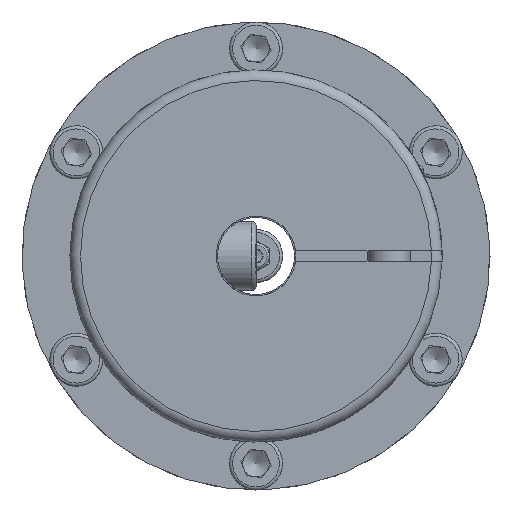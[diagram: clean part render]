
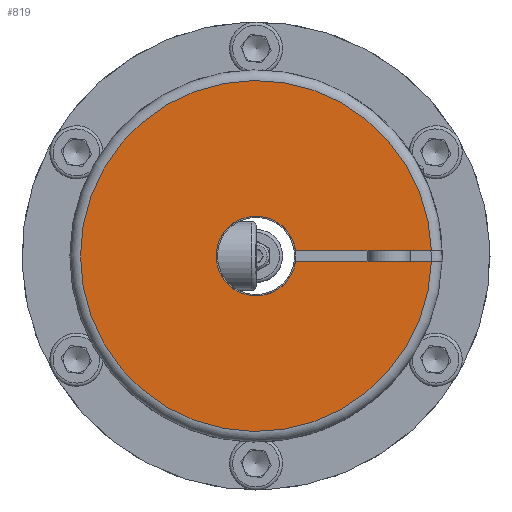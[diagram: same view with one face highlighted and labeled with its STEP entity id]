
A CAD part, left-side view. The second image highlights one B-rep face of the part: STEP entity #819.
In plain terms, the highlighted planar face has unit normal (-1, 0, 0).
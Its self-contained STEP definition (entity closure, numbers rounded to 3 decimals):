
#819 = ADVANCED_FACE( '', ( #1649 ), #1650, .F. );
#1649 = FACE_OUTER_BOUND( '', #2827, .T. );
#1650 = PLANE( '', #2828 );
#2827 = EDGE_LOOP( '', ( #5152, #5153, #5154, #5155 ) );
#2828 = AXIS2_PLACEMENT_3D( '', #5156, #5157, #5158 );
#5152 = ORIENTED_EDGE( '', *, *, #7884, .T. );
#5153 = ORIENTED_EDGE( '', *, *, #7883, .F. );
#5154 = ORIENTED_EDGE( '', *, *, #7880, .T. );
#5155 = ORIENTED_EDGE( '', *, *, #7885, .T. );
#5156 = CARTESIAN_POINT( '', ( -29., 0., 33. ) );
#5157 = DIRECTION( '', ( 1., 0., 0. ) );
#5158 = DIRECTION( '', ( 0., 0., -1. ) );
#7880 = EDGE_CURVE( '', #9457, #9469, #9471, .T. );
#7883 = EDGE_CURVE( '', #9457, #9473, #9476, .T. );
#7884 = EDGE_CURVE( '', #9477, #9473, #9478, .T. );
#7885 = EDGE_CURVE( '', #9469, #9477, #9479, .T. );
#9457 = VERTEX_POINT( '', #13863 );
#9469 = VERTEX_POINT( '', #13895 );
#9471 = LINE( '', #13910, #13911 );
#9473 = VERTEX_POINT( '', #13913 );
#9476 = CIRCLE( '', #13917, 7.5 );
#9477 = VERTEX_POINT( '', #13918 );
#9478 = LINE( '', #13919, #13920 );
#9479 = CIRCLE( '', #13921, 33. );
#13863 = CARTESIAN_POINT( '', ( -29., -7.25, -1.921 ) );
#13895 = CARTESIAN_POINT( '', ( -29., -30.857, -11.699 ) );
#13910 = CARTESIAN_POINT( '', ( -29., -0.383, 0.924 ) );
#13911 = VECTOR( '', #16787, 1000. );
#13913 = CARTESIAN_POINT( '', ( -29., -6.485, -3.768 ) );
#13917 = AXIS2_PLACEMENT_3D( '', #16792, #16793, #16794 );
#13918 = CARTESIAN_POINT( '', ( -29., -30.091, -13.547 ) );
#13919 = CARTESIAN_POINT( '', ( -29., -34.725, -15.466 ) );
#13920 = VECTOR( '', #16795, 1000. );
#13921 = AXIS2_PLACEMENT_3D( '', #16796, #16797, #16798 );
#16787 = DIRECTION( '', ( 0., -0.924, -0.383 ) );
#16792 = CARTESIAN_POINT( '', ( -29., 0., 0. ) );
#16793 = DIRECTION( '', ( -1., 0., 0. ) );
#16794 = DIRECTION( '', ( 0., 0., 1. ) );
#16795 = DIRECTION( '', ( 0., 0.924, 0.383 ) );
#16796 = CARTESIAN_POINT( '', ( -29., 0., 0. ) );
#16797 = DIRECTION( '', ( -1., 0., 0. ) );
#16798 = DIRECTION( '', ( 0., 0., 1. ) );
